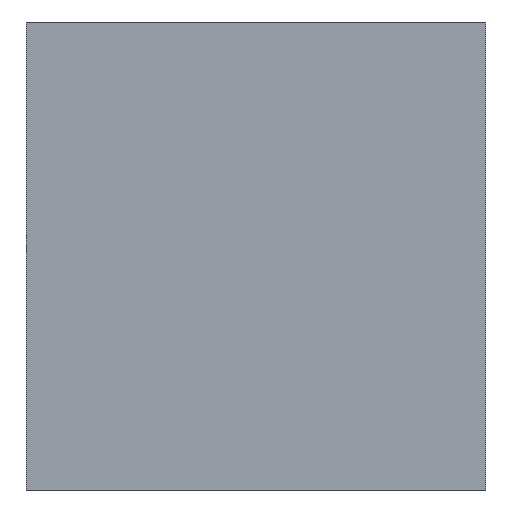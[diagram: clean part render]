
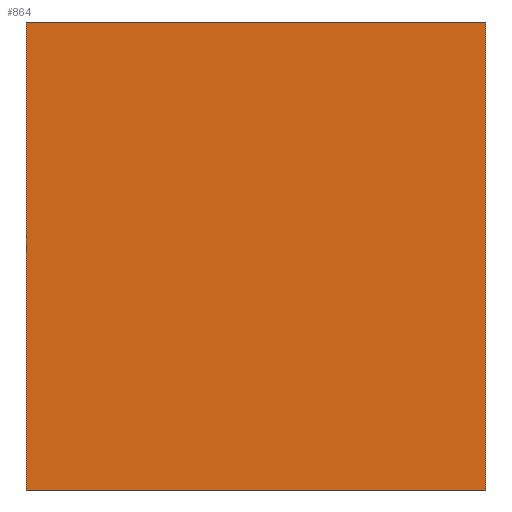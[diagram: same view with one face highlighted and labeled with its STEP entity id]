
A CAD part, front view. The second image highlights one B-rep face of the part: STEP entity #864.
In plain terms, the highlighted planar face has unit normal (0, -1, 0).
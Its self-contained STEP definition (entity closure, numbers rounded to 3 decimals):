
#50 = PLANE('',#51);
#51 = AXIS2_PLACEMENT_3D('',#52,#53,#54);
#52 = CARTESIAN_POINT('',(-5.5,18.5,18.));
#53 = DIRECTION('',(1.,0.,0.));
#54 = DIRECTION('',(0.,0.,1.));
#146 = PLANE('',#147);
#147 = AXIS2_PLACEMENT_3D('',#148,#149,#150);
#148 = CARTESIAN_POINT('',(-5.5,-28.5,25.2));
#149 = DIRECTION('',(0.,0.,1.));
#150 = DIRECTION('',(1.,0.,0.));
#479 = VERTEX_POINT('',#480);
#480 = CARTESIAN_POINT('',(-5.5,-28.5,25.2));
#501 = EDGE_CURVE('',#502,#479,#504,.T.);
#502 = VERTEX_POINT('',#503);
#503 = CARTESIAN_POINT('',(-5.5,-28.5,14.));
#504 = SURFACE_CURVE('',#505,(#509,#516),.PCURVE_S1.);
#505 = LINE('',#506,#507);
#506 = CARTESIAN_POINT('',(-5.5,-28.5,14.));
#507 = VECTOR('',#508,1.);
#508 = DIRECTION('',(0.,0.,1.));
#509 = PCURVE('',#50,#510);
#510 = DEFINITIONAL_REPRESENTATION('',(#511),#515);
#511 = LINE('',#512,#513);
#512 = CARTESIAN_POINT('',(-4.,47.));
#513 = VECTOR('',#514,1.);
#514 = DIRECTION('',(1.,0.));
#515 = ( GEOMETRIC_REPRESENTATION_CONTEXT(2) 
PARAMETRIC_REPRESENTATION_CONTEXT() REPRESENTATION_CONTEXT('2D SPACE',''
  ) );
#516 = PCURVE('',#517,#522);
#517 = PLANE('',#518);
#518 = AXIS2_PLACEMENT_3D('',#519,#520,#521);
#519 = CARTESIAN_POINT('',(-5.5,-28.5,18.));
#520 = DIRECTION('',(0.,1.,0.));
#521 = DIRECTION('',(0.,0.,1.));
#522 = DEFINITIONAL_REPRESENTATION('',(#523),#527);
#523 = LINE('',#524,#525);
#524 = CARTESIAN_POINT('',(-4.,0.));
#525 = VECTOR('',#526,1.);
#526 = DIRECTION('',(1.,0.));
#527 = ( GEOMETRIC_REPRESENTATION_CONTEXT(2) 
PARAMETRIC_REPRESENTATION_CONTEXT() REPRESENTATION_CONTEXT('2D SPACE',''
  ) );
#545 = PLANE('',#546);
#546 = AXIS2_PLACEMENT_3D('',#547,#548,#549);
#547 = CARTESIAN_POINT('',(-5.5,-28.5,14.));
#548 = DIRECTION('',(0.,0.,1.));
#549 = DIRECTION('',(1.,0.,0.));
#632 = PLANE('',#633);
#633 = AXIS2_PLACEMENT_3D('',#634,#635,#636);
#634 = CARTESIAN_POINT('',(5.5,18.5,18.));
#635 = DIRECTION('',(1.,0.,0.));
#636 = DIRECTION('',(0.,0.,1.));
#789 = EDGE_CURVE('',#502,#790,#792,.T.);
#790 = VERTEX_POINT('',#791);
#791 = CARTESIAN_POINT('',(5.5,-28.5,14.));
#792 = SURFACE_CURVE('',#793,(#797,#804),.PCURVE_S1.);
#793 = LINE('',#794,#795);
#794 = CARTESIAN_POINT('',(-5.5,-28.5,14.));
#795 = VECTOR('',#796,1.);
#796 = DIRECTION('',(1.,0.,0.));
#797 = PCURVE('',#545,#798);
#798 = DEFINITIONAL_REPRESENTATION('',(#799),#803);
#799 = LINE('',#800,#801);
#800 = CARTESIAN_POINT('',(0.,0.));
#801 = VECTOR('',#802,1.);
#802 = DIRECTION('',(1.,0.));
#803 = ( GEOMETRIC_REPRESENTATION_CONTEXT(2) 
PARAMETRIC_REPRESENTATION_CONTEXT() REPRESENTATION_CONTEXT('2D SPACE',''
  ) );
#804 = PCURVE('',#517,#805);
#805 = DEFINITIONAL_REPRESENTATION('',(#806),#810);
#806 = LINE('',#807,#808);
#807 = CARTESIAN_POINT('',(-4.,0.));
#808 = VECTOR('',#809,1.);
#809 = DIRECTION('',(0.,1.));
#810 = ( GEOMETRIC_REPRESENTATION_CONTEXT(2) 
PARAMETRIC_REPRESENTATION_CONTEXT() REPRESENTATION_CONTEXT('2D SPACE',''
  ) );
#864 = ADVANCED_FACE('',(#865),#517,.F.);
#865 = FACE_BOUND('',#866,.F.);
#866 = EDGE_LOOP('',(#867,#890,#891,#892));
#867 = ORIENTED_EDGE('',*,*,#868,.F.);
#868 = EDGE_CURVE('',#790,#869,#871,.T.);
#869 = VERTEX_POINT('',#870);
#870 = CARTESIAN_POINT('',(5.5,-28.5,25.2));
#871 = SURFACE_CURVE('',#872,(#876,#883),.PCURVE_S1.);
#872 = LINE('',#873,#874);
#873 = CARTESIAN_POINT('',(5.5,-28.5,14.));
#874 = VECTOR('',#875,1.);
#875 = DIRECTION('',(0.,0.,1.));
#876 = PCURVE('',#517,#877);
#877 = DEFINITIONAL_REPRESENTATION('',(#878),#882);
#878 = LINE('',#879,#880);
#879 = CARTESIAN_POINT('',(-4.,11.));
#880 = VECTOR('',#881,1.);
#881 = DIRECTION('',(1.,0.));
#882 = ( GEOMETRIC_REPRESENTATION_CONTEXT(2) 
PARAMETRIC_REPRESENTATION_CONTEXT() REPRESENTATION_CONTEXT('2D SPACE',''
  ) );
#883 = PCURVE('',#632,#884);
#884 = DEFINITIONAL_REPRESENTATION('',(#885),#889);
#885 = LINE('',#886,#887);
#886 = CARTESIAN_POINT('',(-4.,47.));
#887 = VECTOR('',#888,1.);
#888 = DIRECTION('',(1.,0.));
#889 = ( GEOMETRIC_REPRESENTATION_CONTEXT(2) 
PARAMETRIC_REPRESENTATION_CONTEXT() REPRESENTATION_CONTEXT('2D SPACE',''
  ) );
#890 = ORIENTED_EDGE('',*,*,#789,.F.);
#891 = ORIENTED_EDGE('',*,*,#501,.T.);
#892 = ORIENTED_EDGE('',*,*,#893,.T.);
#893 = EDGE_CURVE('',#479,#869,#894,.T.);
#894 = SURFACE_CURVE('',#895,(#899,#906),.PCURVE_S1.);
#895 = LINE('',#896,#897);
#896 = CARTESIAN_POINT('',(-5.5,-28.5,25.2));
#897 = VECTOR('',#898,1.);
#898 = DIRECTION('',(1.,0.,0.));
#899 = PCURVE('',#517,#900);
#900 = DEFINITIONAL_REPRESENTATION('',(#901),#905);
#901 = LINE('',#902,#903);
#902 = CARTESIAN_POINT('',(7.2,0.));
#903 = VECTOR('',#904,1.);
#904 = DIRECTION('',(0.,1.));
#905 = ( GEOMETRIC_REPRESENTATION_CONTEXT(2) 
PARAMETRIC_REPRESENTATION_CONTEXT() REPRESENTATION_CONTEXT('2D SPACE',''
  ) );
#906 = PCURVE('',#146,#907);
#907 = DEFINITIONAL_REPRESENTATION('',(#908),#912);
#908 = LINE('',#909,#910);
#909 = CARTESIAN_POINT('',(0.,0.));
#910 = VECTOR('',#911,1.);
#911 = DIRECTION('',(1.,0.));
#912 = ( GEOMETRIC_REPRESENTATION_CONTEXT(2) 
PARAMETRIC_REPRESENTATION_CONTEXT() REPRESENTATION_CONTEXT('2D SPACE',''
  ) );
